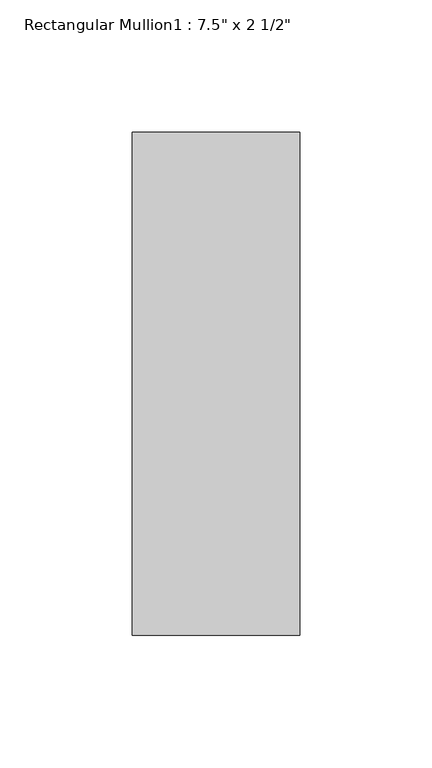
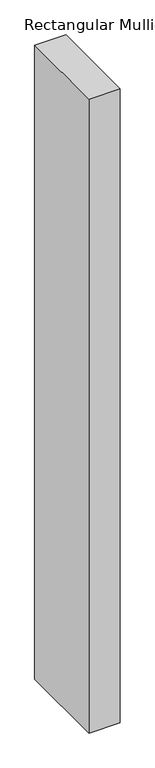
"""IFC4 building model written with IfcOpenShell, lengths in millimetres: member geometry."""

import ifcopenshell
import ifcopenshell.guid

model = None  # the IFC model being written
_history = None  # IfcOwnerHistory: only IFC2X3 demands one
_inside = {}  # id of a spatial element -> (the spatial element, [elements in it])
_under = {}  # id of a project, library or spatial element -> (it, [spatial elements below it])
_declared = {}  # id of a project -> (the project, [libraries it declares])
_typed = {}  # id of a type object -> (the type object, [elements of that type])
_made_of = {}  # id of a material, layer set ... -> (it, [elements and type objects made of it])


def new_model(schema):
    """Start an empty IFC model of exactly this schema.

    Asked for "IFC4X3", IfcOpenShell would pick the latest addendum, in which some entities
    have other attributes; the version numbers below select the first issue.
    IFC2X3 requires an IfcOwnerHistory on every rooted entity: one is made here for all.
    """
    global model, _history
    if schema == "IFC4X3":
        model = ifcopenshell.file(schema_version=(4, 3, 0, 0))
    else:
        model = ifcopenshell.file(schema=schema)
    _inside.clear()
    _under.clear()
    _declared.clear()
    _typed.clear()
    _made_of.clear()
    _history = None
    if model.schema == "IFC2X3":
        org = make("IfcOrganization", Name="unknown")
        user = make(
            "IfcPersonAndOrganization",
            ThePerson=make("IfcPerson", FamilyName="unknown"),
            TheOrganization=org,
        )
        app = make(
            "IfcApplication",
            ApplicationDeveloper=org,
            Version="unknown",
            ApplicationFullName="unknown",
            ApplicationIdentifier="unknown",
        )
        _history = make(
            "IfcOwnerHistory",
            OwningUser=user,
            OwningApplication=app,
            ChangeAction="ADDED",
            CreationDate=0,
        )
    return model


def make(cls, **values):
    """One entity of the class cls with the attributes given. An attribute that is None is left unset."""
    return model.create_entity(
        cls, **{name: value for name, value in values.items() if value is not None}
    )


def rooted(cls, **values):
    """An entity with a GlobalId (a new one), such as an element, a storey or a relation."""
    return make(cls, GlobalId=ifcopenshell.guid.new(), OwnerHistory=_history, **values)


def si_unit(unit_type, name, prefix=None):
    """IfcSIUnit, for example si_unit("LENGTHUNIT", "METRE", prefix="MILLI")."""
    return make("IfcSIUnit", UnitType=unit_type, Prefix=prefix, Name=name)


def assignment(units):
    """IfcUnitAssignment: the units of a project."""
    return None if units is None else make("IfcUnitAssignment", Units=units)


def point(xyz):
    """IfcCartesianPoint."""
    return None if xyz is None else make("IfcCartesianPoint", Coordinates=xyz)


def direction(xyz):
    """IfcDirection."""
    return None if xyz is None else make("IfcDirection", DirectionRatios=xyz)


def frame(location, z_axis=None, x_axis=None):
    """IfcAxis2Placement3D, a coordinate frame: its origin and axes. An axis left out is left unset."""
    return make(
        "IfcAxis2Placement3D",
        Location=point(location),
        Axis=direction(z_axis),
        RefDirection=direction(x_axis),
    )


def origin():
    """The frame at (0, 0, 0) with its axes left unset."""
    return frame((0.0, 0.0, 0.0))


def place(relative_to, where):
    """IfcLocalPlacement: puts the frame where relative to a parent placement (None: the world)."""
    return make(
        "IfcLocalPlacement", PlacementRelTo=relative_to, RelativePlacement=where
    )


def context(
    kind, dimensions, precision=None, world=None, true_north=None, identifier=None
):
    """IfcGeometricRepresentationContext, for example the 3D "Model" context."""
    return make(
        "IfcGeometricRepresentationContext",
        ContextIdentifier=identifier,
        ContextType=kind,
        CoordinateSpaceDimension=dimensions,
        Precision=precision,
        WorldCoordinateSystem=world,
        TrueNorth=true_north,
    )


def project(units=None, contexts=None):
    """IfcProject with its units and contexts."""
    return rooted(
        "IfcProject",
        Name="project",
        RepresentationContexts=contexts,
        UnitsInContext=assignment(units),
    )


def spatial(cls, under=None, at=None, **own):
    """A site, building, storey or space (cls), placed at a placement, below another one or the project."""
    s = rooted(cls, ObjectPlacement=at, **own)
    if under is not None:
        _under.setdefault(under.id(), (under, []))[1].append(s)
    return s


def polyline(points):
    """IfcPolyline through the points."""
    return make("IfcPolyline", Points=[point(p) for p in points])


def outline(outer, holes=None, kind="AREA"):
    """IfcArbitraryClosedProfileDef: a profile drawn as a closed curve; with holes, ...WithVoids."""
    if holes is None:
        return make("IfcArbitraryClosedProfileDef", ProfileType=kind, OuterCurve=outer)
    return make(
        "IfcArbitraryProfileDefWithVoids",
        ProfileType=kind,
        OuterCurve=outer,
        InnerCurves=holes,
    )


def extrude(swept, where, along, depth):
    """IfcExtrudedAreaSolid: the profile swept, set in the frame where, extruded along a direction by depth."""
    return make(
        "IfcExtrudedAreaSolid",
        SweptArea=swept,
        Position=where,
        ExtrudedDirection=direction(along),
        Depth=depth,
    )


def shape(context_of_items, identifier, shape_type, items):
    """IfcShapeRepresentation: the items that make up one representation, for example the "Body"."""
    return make(
        "IfcShapeRepresentation",
        ContextOfItems=context_of_items,
        RepresentationIdentifier=identifier,
        RepresentationType=shape_type,
        Items=items,
    )


def source(mapping_origin, context_of_items, identifier, shape_type, items):
    """IfcRepresentationMap: a shape defined once, which mapped items show again and again."""
    return make(
        "IfcRepresentationMap",
        MappingOrigin=mapping_origin,
        MappedRepresentation=shape(context_of_items, identifier, shape_type, items),
    )


def transform(
    local_origin,
    x_axis=None,
    y_axis=None,
    z_axis=None,
    scale=None,
    scale2=None,
    scale3=None,
    uniform=True,
):
    """IfcCartesianTransformationOperator3D, or its non-uniform kind. x_axis, y_axis, z_axis: its Axis1, 2, 3."""
    if uniform:
        return make(
            "IfcCartesianTransformationOperator3D",
            Axis1=direction(x_axis),
            Axis2=direction(y_axis),
            LocalOrigin=point(local_origin),
            Scale=scale,
            Axis3=direction(z_axis),
        )
    return make(
        "IfcCartesianTransformationOperator3DnonUniform",
        Axis1=direction(x_axis),
        Axis2=direction(y_axis),
        LocalOrigin=point(local_origin),
        Scale=scale,
        Axis3=direction(z_axis),
        Scale2=scale2,
        Scale3=scale3,
    )


def mapped(mapping_source, mapping_target):
    """IfcMappedItem: shows the shape of a source again, moved by a transform."""
    return make(
        "IfcMappedItem", MappingSource=mapping_source, MappingTarget=mapping_target
    )


def made_of(thing, what):
    """Note that an element or type object is made of a material, layer set ...; save() writes the relation."""
    if what is not None:
        _made_of.setdefault(what.id(), (what, []))[1].append(thing)
    return thing


def element(
    cls,
    number,
    at=None,
    inside=None,
    cuts=None,
    type_object=None,
    material=None,
    context=None,
    identifier="Body",
    shape_type=None,
    held_by="IfcProductDefinitionShape",
    body=None,
    shapes=None,
    **own,
):
    """One element of the class cls, such as IfcWall. Its Tag is "e" and its number.

    at: its placement. inside: the storey or other place that contains it. cuts: it is an
    opening in that element (IfcRelVoidsElement). A single representation is given by context,
    identifier, shape_type and body (its items); several are given by shapes. held_by: the class
    of the entity that holds the representations. save() writes the other relations.
    """
    e = rooted(cls, Tag="e%d" % number, ObjectPlacement=at, **own)
    if body is not None:
        shapes = [shape(context, identifier, shape_type, body)]
    if shapes is not None:
        e.Representation = make(held_by, Representations=shapes)
    if inside is not None:
        _inside.setdefault(inside.id(), (inside, []))[1].append(e)
    if cuts is not None:
        rooted(
            "IfcRelVoidsElement", RelatingBuildingElement=cuts, RelatedOpeningElement=e
        )
    if type_object is not None:
        _typed.setdefault(type_object.id(), (type_object, []))[1].append(e)
    return made_of(e, material)


def aggregate(whole, parts):
    """IfcRelAggregates: a whole, such as a stair, and the parts it consists of."""
    return rooted("IfcRelAggregates", RelatingObject=whole, RelatedObjects=parts)


def save(model, path):
    """Write the relations noted so far, then the file.

    IfcRelAggregates (storeys below a building ...), IfcRelContainedInSpatialStructure (elements
    in a storey), IfcRelDefinesByType, IfcRelAssociatesMaterial and IfcRelDeclares: one each for
    every whole, place, type object, material and project.
    """
    for whole, parts in _under.values():
        aggregate(whole, parts)
    for where, things in _inside.values():
        rooted(
            "IfcRelContainedInSpatialStructure",
            RelatedElements=things,
            RelatingStructure=where,
        )
    for kind, things in _typed.values():
        rooted("IfcRelDefinesByType", RelatedObjects=things, RelatingType=kind)
    for what, things in _made_of.values():
        rooted("IfcRelAssociatesMaterial", RelatedObjects=things, RelatingMaterial=what)
    for by, libraries in _declared.values():
        rooted("IfcRelDeclares", RelatingContext=by, RelatedDefinitions=libraries)
    model.write(path)


def member_8d53ab54(model_context):
    return source(origin(), model_context, "Body", "SweptSolid", [
        extrude(outline(polyline([(0.0, -165.1), (-63.5, -165.1), (-63.5, 25.4), (0.0, 25.4), (0.0, -165.1)])), frame((0.0, 0.0, -1358.9), z_axis=(0.0, 0.0, 1.0), x_axis=(1.0, 0.0, 0.0)), (0.0, 0.0, 1.0), 1358.9),
    ])


if __name__ == "__main__":
    model = new_model("IFC4")
    model_context = context("Model", 3, world=origin())
    ifc_project = project(units=[si_unit("LENGTHUNIT", "METRE", prefix="MILLI")], contexts=[model_context])
    site = spatial("IfcSite", under=ifc_project)
    building = spatial("IfcBuilding", under=site)
    placement = place(None, origin())
    member_shape = member_8d53ab54(model_context)
    element("IfcMember", 1, ObjectType="Rectangular Mullion1 : 7.5\" x 2 1/2\"", at=placement, inside=building, context=model_context, shape_type="MappedRepresentation", body=[
        mapped(member_shape, transform((0.0, 0.0, 0.0), x_axis=(1.0, 0.0, 0.0), y_axis=(0.0, 1.0, 0.0), z_axis=(0.0, 0.0, 1.0))),
    ])
    save(model, "model.ifc")
